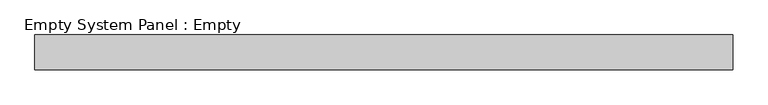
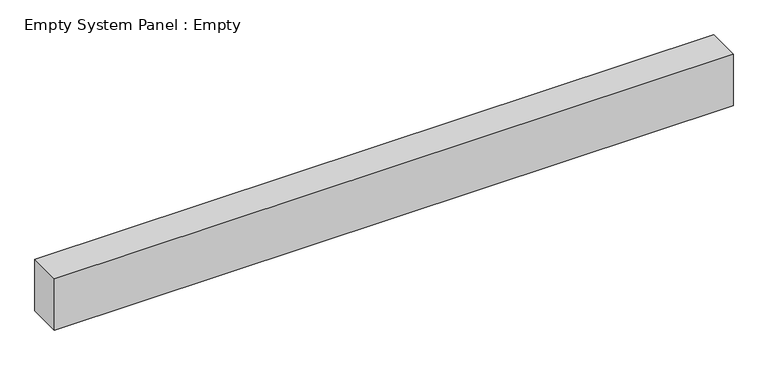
"""IFC4 building model written with IfcOpenShell, lengths in millimetres: plate geometry, Empty System Panel : Empty."""

from ifc_helpers import new_model, si_unit, origin, origin_with_axes, place, context, project, spatial, polyline, outline, extrude, source, transform, mapped, element, save


def empty_system_panel_empty_bbeb8583(model_context):
    return source(origin(), model_context, "Body", "SweptSolid", [
        extrude(outline(polyline([(1000.0, -50.0), (-1000.0, -50.0), (-1000.0, 50.0), (1000.0, 50.0), (1000.0, -50.0)])), origin_with_axes(), (0.0, 0.0, 1.0), 160.3015152),
    ])


if __name__ == "__main__":
    model = new_model("IFC4")
    model_context = context("Model", 3, world=origin())
    ifc_project = project(units=[si_unit("LENGTHUNIT", "METRE", prefix="MILLI")], contexts=[model_context])
    site = spatial("IfcSite", under=ifc_project)
    building = spatial("IfcBuilding", under=site)
    placement = place(None, origin())
    empty_system_panel_empty_shape = empty_system_panel_empty_bbeb8583(model_context)
    element("IfcPlate", 1, ObjectType="Empty System Panel : Empty", at=placement, inside=building, context=model_context, shape_type="MappedRepresentation", body=[
        mapped(empty_system_panel_empty_shape, transform((0.0, 0.0, 0.0), x_axis=(1.0, 0.0, 0.0), y_axis=(0.0, 1.0, 0.0), z_axis=(0.0, 0.0, 1.0))),
    ])
    save(model, "model.ifc")
